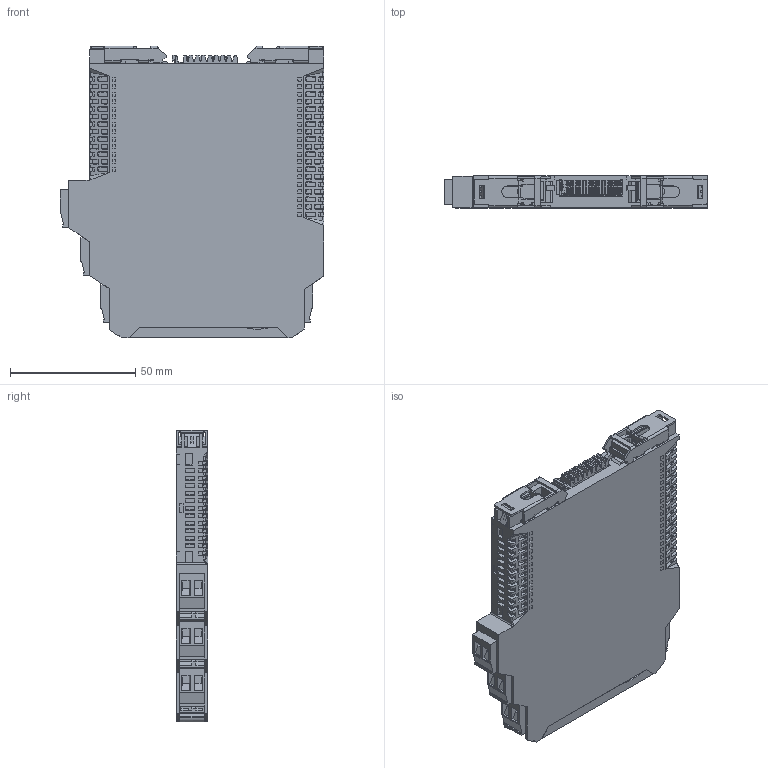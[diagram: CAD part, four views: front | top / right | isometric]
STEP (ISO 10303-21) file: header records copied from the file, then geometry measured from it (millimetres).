
FILE_DESCRIPTION((''),'2;1');
FILE_NAME('D:\ТЗ\Для отдела рекламы\БИГ\БИГ-2-1-11.stp','2024-07-08T12:12:55',('A.V.Dzhibladze'),(''),'Autodesk Inventor 2012','Autodesk Inventor 2012','');
FILE_SCHEMA(('AUTOMOTIVE_DESIGN { 1 2 10303 214 0 1 1 1 }'));
Length unit declared in the file: millimetre
Products named in the file (1): БИГ-2-1-11
Bounding box: 105.4 x 12.75 x 116.55 mm (x, y, z)
Volume: 130599.5 mm3; surface area: 36586.3 mm2
Topology: 2 solids, 8 shells, 2946 faces, 8274 edges, 5439 vertices
Faces by surface type: plane 2200, cylinder 679, bspline 52, sphere 6, torus 5, cone 4
Full cylindrical faces by diameter (mm): 2 x2, 2.05 x2, 2.7 x1, 3.6 x8
Entity records: 99227 total; most frequent: CARTESIAN_POINT 20548, ORIENTED_EDGE 16466, DIRECTION 15126, EDGE_CURVE 8233, VECTOR 6536, LINE 6536, VERTEX_POINT 5421, AXIS2_PLACEMENT_3D 4295
